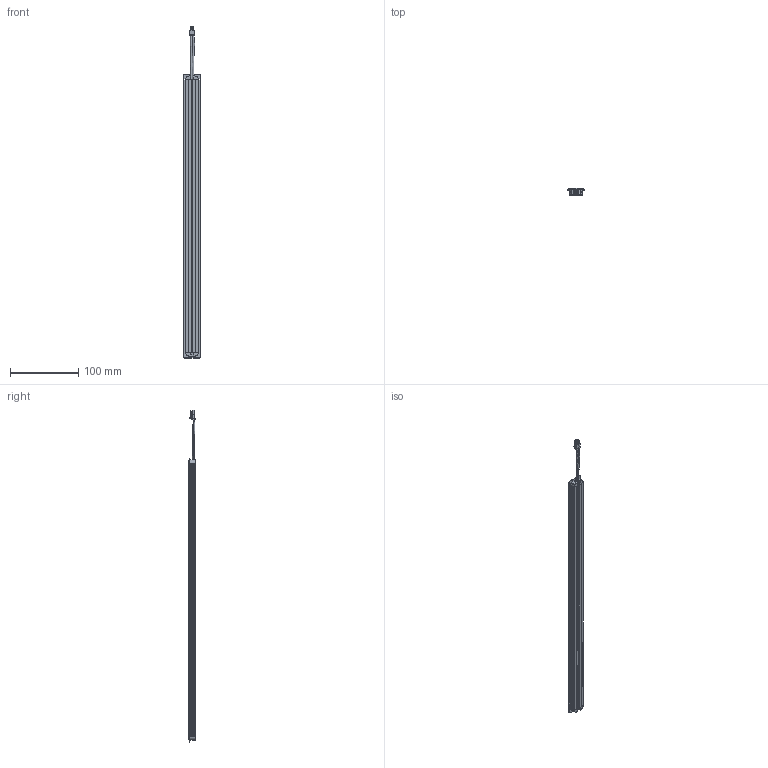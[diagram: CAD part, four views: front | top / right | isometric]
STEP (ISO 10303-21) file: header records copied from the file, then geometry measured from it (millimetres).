
FILE_DESCRIPTION (( 'STEP AP214' ), '1' );
FILE_NAME ('ChiassoCompleto Tappo 7 mm.STEP', '2022-02-17T16:34:28', ( '' ), ( '' ), 'SwSTEP 2.0', 'SolidWorks 2021', '' );
FILE_SCHEMA (( 'AUTOMOTIVE_DESIGN' ));
Length unit declared in the file: millimetre
Products named in the file (1): ChiassoCompleto Tappo 7 mm
Bounding box: 24.41 x 9.6 x 486.34 mm (x, y, z)
Surface area: 62689.9 mm2 (no closed solid volume)
Topology: 0 solids, 7 shells, 426 faces, 1178 edges, 762 vertices
Faces by surface type: plane 257, cylinder 137, bspline 17, sphere 7, cone 4, torus 4
Entity records: 22632 total; most frequent: CARTESIAN_POINT 6983, ORIENTED_EDGE 2348, DIRECTION 2208, EDGE_CURVE 1174, VECTOR 828, LINE 828, VERTEX_POINT 762, AXIS2_PLACEMENT_3D 690
